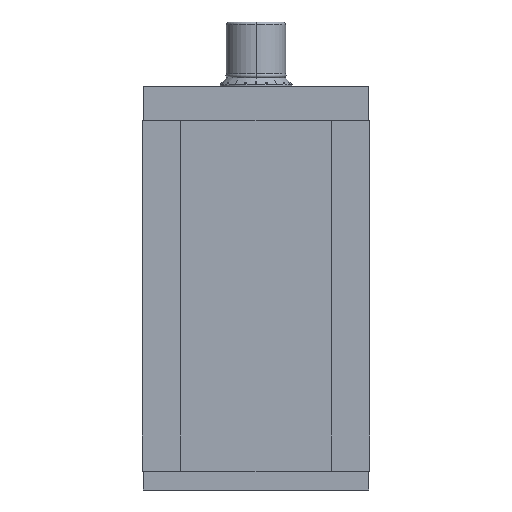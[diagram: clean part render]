
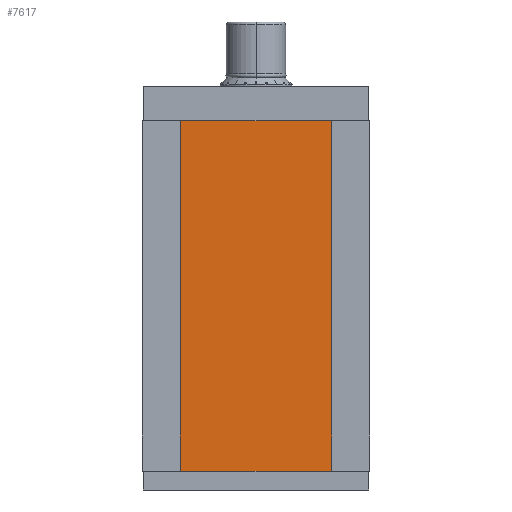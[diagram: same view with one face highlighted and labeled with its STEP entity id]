
A CAD part, front view. The second image highlights one B-rep face of the part: STEP entity #7617.
In plain terms, the highlighted planar face has unit normal (0, -1, 0).
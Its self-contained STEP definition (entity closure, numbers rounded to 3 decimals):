
#3113 = CARTESIAN_POINT ( 'NONE',  ( 41.155, 0., -92.5 ) ) ;
#3164 = DIRECTION ( 'NONE',  ( 0., 0., -1. ) ) ;
#3165 = VECTOR ( 'NONE', #3164, 1000. ) ;
#3166 = CARTESIAN_POINT ( 'NONE',  ( 41.155, 0., 92.5 ) ) ;
#3167 = LINE ( 'NONE', #3166, #3165 ) ;
#3168 = CARTESIAN_POINT ( 'NONE',  ( 41.155, 0., 92.5 ) ) ;
#3469 = DIRECTION ( 'NONE',  ( 0., 0., 1. ) ) ;
#3470 = DIRECTION ( 'NONE',  ( 0., 1., 0. ) ) ;
#3471 = CARTESIAN_POINT ( 'NONE',  ( -41.155, 0., 92.5 ) ) ;
#3472 = AXIS2_PLACEMENT_3D ( 'NONE', #3471, #3470, #3469 ) ;
#3473 = PLANE ( 'NONE',  #3472 ) ;
#3474 = FACE_OUTER_BOUND ( 'NONE', #7618, .T. ) ;
#3479 = CARTESIAN_POINT ( 'NONE',  ( -41.155, 0., 92.5 ) ) ;
#3480 = DIRECTION ( 'NONE',  ( 0., 0., -1. ) ) ;
#3481 = VECTOR ( 'NONE', #3480, 1000. ) ;
#3482 = CARTESIAN_POINT ( 'NONE',  ( -41.155, 0., 92.5 ) ) ;
#3483 = LINE ( 'NONE', #3482, #3481 ) ;
#3484 = CARTESIAN_POINT ( 'NONE',  ( -41.155, 0., -92.5 ) ) ;
#3587 = DIRECTION ( 'NONE',  ( 1., 0., 0. ) ) ;
#3588 = VECTOR ( 'NONE', #3587, 1000. ) ;
#3589 = CARTESIAN_POINT ( 'NONE',  ( -41.155, 0., 92.5 ) ) ;
#3590 = LINE ( 'NONE', #3589, #3588 ) ;
#3591 = DIRECTION ( 'NONE',  ( 1., 0., 0. ) ) ;
#3592 = VECTOR ( 'NONE', #3591, 1000. ) ;
#3593 = CARTESIAN_POINT ( 'NONE',  ( -41.155, 0., -92.5 ) ) ;
#3594 = LINE ( 'NONE', #3593, #3592 ) ;
#7404 = VERTEX_POINT ( 'NONE', #3113 ) ;
#7411 = VERTEX_POINT ( 'NONE', #3168 ) ;
#7413 = EDGE_CURVE ( 'NONE', #7411, #7404, #3167, .T. ) ;
#7608 = VERTEX_POINT ( 'NONE', #3484 ) ;
#7610 = EDGE_CURVE ( 'NONE', #7611, #7608, #3483, .T. ) ;
#7611 = VERTEX_POINT ( 'NONE', #3479 ) ;
#7617 = ADVANCED_FACE ( 'Fl�che15', ( #3474 ), #3473, .F. ) ;
#7618 = EDGE_LOOP ( 'NONE', ( #7673, #7675, #7676, #7678 ) ) ;
#7673 = ORIENTED_EDGE ( 'NONE', *, *, #7674, .T. ) ;
#7674 = EDGE_CURVE ( 'NONE', #7608, #7404, #3594, .T. ) ;
#7675 = ORIENTED_EDGE ( 'NONE', *, *, #7413, .F. ) ;
#7676 = ORIENTED_EDGE ( 'NONE', *, *, #7677, .F. ) ;
#7677 = EDGE_CURVE ( 'NONE', #7611, #7411, #3590, .T. ) ;
#7678 = ORIENTED_EDGE ( 'NONE', *, *, #7610, .T. ) ;
